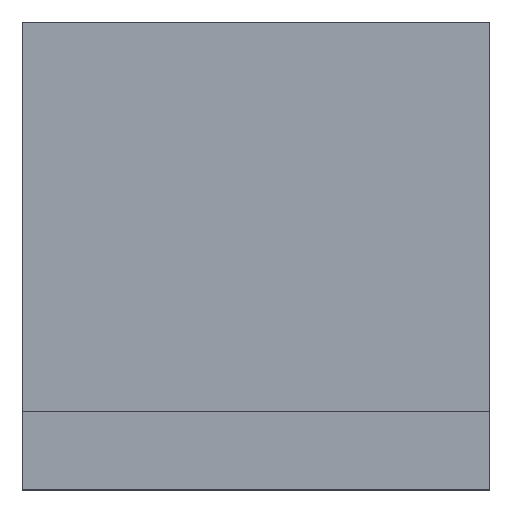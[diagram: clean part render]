
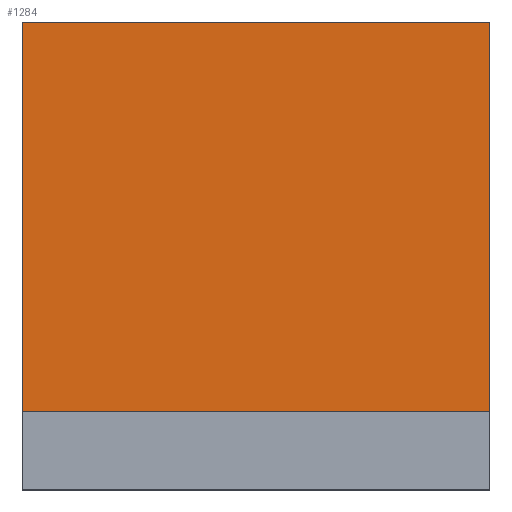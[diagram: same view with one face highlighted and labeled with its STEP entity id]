
A CAD part, top view. The second image highlights one B-rep face of the part: STEP entity #1284.
In plain terms, the highlighted planar face has unit normal (0, 0, 1).
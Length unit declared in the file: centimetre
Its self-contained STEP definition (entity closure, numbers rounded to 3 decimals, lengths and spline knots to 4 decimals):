
#32 = ORIENTED_EDGE ( 'NONE', *, *, #1526, .T. ) ;
#57 = CARTESIAN_POINT ( 'NONE',  ( 0., 0., 1000. ) ) ;
#59 = ORIENTED_EDGE ( 'NONE', *, *, #77, .T. ) ;
#71 = LINE ( 'NONE', #1373, #1482 ) ;
#77 = EDGE_CURVE ( 'NONE', #1539, #1097, #418, .T. ) ;
#145 = CARTESIAN_POINT ( 'NONE',  ( 1000., 167.1366, 1000. ) ) ;
#171 = PLANE ( 'NONE',  #1207 ) ;
#309 = DIRECTION ( 'NONE',  ( 1., 0., 0. ) ) ;
#342 = DIRECTION ( 'NONE',  ( 0., -1., 0. ) ) ;
#416 = CARTESIAN_POINT ( 'NONE',  ( 0., 167.1366, 1000. ) ) ;
#418 = LINE ( 'NONE', #1131, #1267 ) ;
#434 = DIRECTION ( 'NONE',  ( -1., 0., 0. ) ) ;
#574 = VECTOR ( 'NONE', #434, 100. ) ;
#624 = DIRECTION ( 'NONE',  ( 0., 0., 1. ) ) ;
#652 = VERTEX_POINT ( 'NONE', #1839 ) ;
#708 = LINE ( 'NONE', #1121, #1651 ) ;
#834 = EDGE_CURVE ( 'NONE', #652, #1590, #1005, .T. ) ;
#990 = EDGE_CURVE ( 'NONE', #1590, #1539, #71, .T. ) ;
#1005 = LINE ( 'NONE', #1744, #574 ) ;
#1097 = VERTEX_POINT ( 'NONE', #145 ) ;
#1121 = CARTESIAN_POINT ( 'NONE',  ( 1000., 1000., 1000. ) ) ;
#1129 = CARTESIAN_POINT ( 'NONE',  ( 0., 1000., 1000. ) ) ;
#1131 = CARTESIAN_POINT ( 'NONE',  ( 0., 167.1366, 1000. ) ) ;
#1177 = DIRECTION ( 'NONE',  ( 1., 0., 0. ) ) ;
#1193 = FACE_OUTER_BOUND ( 'NONE', #1675, .T. ) ;
#1207 = AXIS2_PLACEMENT_3D ( 'NONE', #57, #624, #1177 ) ;
#1267 = VECTOR ( 'NONE', #309, 100. ) ;
#1284 = ADVANCED_FACE ( 'NONE', ( #1193 ), #171, .T. ) ;
#1373 = CARTESIAN_POINT ( 'NONE',  ( 0., 1000., 1000. ) ) ;
#1409 = ORIENTED_EDGE ( 'NONE', *, *, #990, .T. ) ;
#1482 = VECTOR ( 'NONE', #342, 100. ) ;
#1526 = EDGE_CURVE ( 'NONE', #1097, #652, #708, .T. ) ;
#1539 = VERTEX_POINT ( 'NONE', #416 ) ;
#1557 = ORIENTED_EDGE ( 'NONE', *, *, #834, .T. ) ;
#1590 = VERTEX_POINT ( 'NONE', #1129 ) ;
#1651 = VECTOR ( 'NONE', #1684, 100. ) ;
#1675 = EDGE_LOOP ( 'NONE', ( #59, #32, #1557, #1409 ) ) ;
#1684 = DIRECTION ( 'NONE',  ( 0., 1., 0. ) ) ;
#1744 = CARTESIAN_POINT ( 'NONE',  ( 0., 1000., 1000. ) ) ;
#1839 = CARTESIAN_POINT ( 'NONE',  ( 1000., 1000., 1000. ) ) ;
